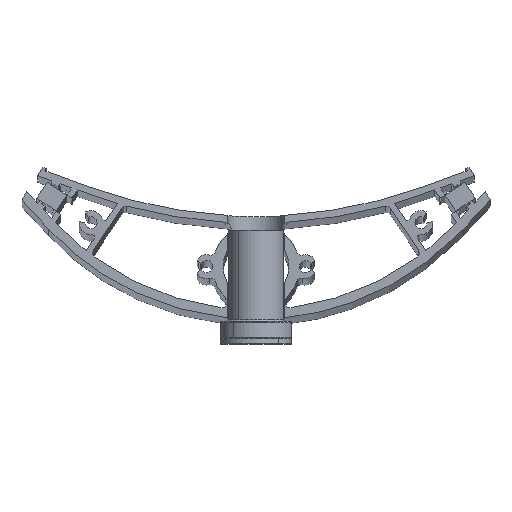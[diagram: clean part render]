
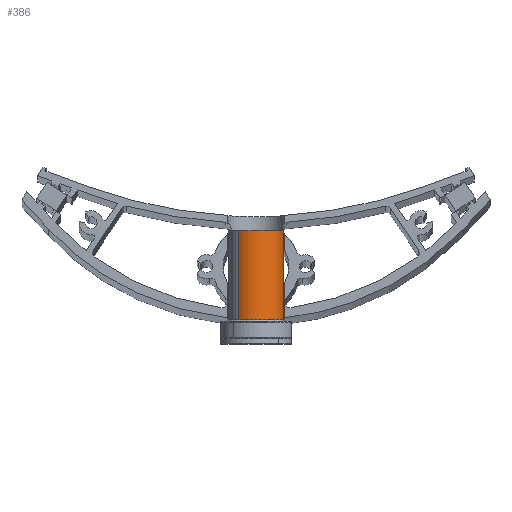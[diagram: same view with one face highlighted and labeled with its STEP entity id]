
A CAD part, top view. The second image highlights one B-rep face of the part: STEP entity #386.
In plain terms, the highlighted cylindrical face has radius 11.668 mm (diameter 23.336 mm), a partial arc.
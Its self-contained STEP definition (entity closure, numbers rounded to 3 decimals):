
#386=ADVANCED_FACE('',(#590),#3486,.T.);
#590=FACE_OUTER_BOUND('',#794,.T.);
#794=EDGE_LOOP('',(#1000,#1001,#1002,#1003));
#1000=ORIENTED_EDGE('',*,*,#2165,.F.);
#1001=ORIENTED_EDGE('',*,*,#2166,.T.);
#1002=ORIENTED_EDGE('',*,*,#2164,.T.);
#1003=ORIENTED_EDGE('',*,*,#2176,.F.);
#2164=EDGE_CURVE('',#2966,#2974,#2746,.T.);
#2165=EDGE_CURVE('',#2967,#2973,#2747,.T.);
#2166=EDGE_CURVE('',#2967,#2966,#2748,.T.);
#2176=EDGE_CURVE('',#2973,#2974,#2758,.T.);
#2746=(
BOUNDED_CURVE()
B_SPLINE_CURVE(2,(#4143,#4144,#4145,#4146,#4147),.UNSPECIFIED.,.F.,.F.)
B_SPLINE_CURVE_WITH_KNOTS((3,2,3),(-95.926,-71.945,
-47.963),.UNSPECIFIED.)
CURVE()
GEOMETRIC_REPRESENTATION_ITEM()
RATIONAL_B_SPLINE_CURVE((1.,0.707,1.,0.707,1.))
REPRESENTATION_ITEM('')
);
#2747=(
BOUNDED_CURVE()
B_SPLINE_CURVE(2,(#4148,#4149,#4150,#4151,#4152),.UNSPECIFIED.,.F.,.F.)
B_SPLINE_CURVE_WITH_KNOTS((3,2,3),(0.,19.114,38.228),
 .UNSPECIFIED.)
CURVE()
GEOMETRIC_REPRESENTATION_ITEM()
RATIONAL_B_SPLINE_CURVE((1.,0.707,1.,0.707,1.))
REPRESENTATION_ITEM('')
);
#2748=(
BOUNDED_CURVE()
B_SPLINE_CURVE(1,(#4153,#4154),.UNSPECIFIED.,.F.,.F.)
B_SPLINE_CURVE_WITH_KNOTS((2,2),(7.923,46.047),
 .UNSPECIFIED.)
CURVE()
GEOMETRIC_REPRESENTATION_ITEM()
RATIONAL_B_SPLINE_CURVE((1.,1.))
REPRESENTATION_ITEM('')
);
#2758=(
BOUNDED_CURVE()
B_SPLINE_CURVE(1,(#4191,#4192),.UNSPECIFIED.,.F.,.F.)
B_SPLINE_CURVE_WITH_KNOTS((2,2),(7.923,46.047),
 .UNSPECIFIED.)
CURVE()
GEOMETRIC_REPRESENTATION_ITEM()
RATIONAL_B_SPLINE_CURVE((1.,1.))
REPRESENTATION_ITEM('')
);
#2966=VERTEX_POINT('',#4129);
#2967=VERTEX_POINT('',#4130);
#2973=VERTEX_POINT('',#4136);
#2974=VERTEX_POINT('',#4137);
#3486=CYLINDRICAL_SURFACE('',#3642,11.668);
#3642=AXIS2_PLACEMENT_3D('',#4032,#3837,$);
#3837=DIRECTION('',(0.,-1.,0.));
#4032=CARTESIAN_POINT('',(1000.,-7.548,1515.484));
#4129=CARTESIAN_POINT('',(1007.327,15.475,1506.403));
#4130=CARTESIAN_POINT('',(1007.327,-22.648,1506.403));
#4136=CARTESIAN_POINT('',(992.673,-22.648,1524.565));
#4137=CARTESIAN_POINT('',(992.673,15.475,1524.565));
#4143=CARTESIAN_POINT('',(1007.327,15.475,1506.403));
#4144=CARTESIAN_POINT('',(1016.408,15.475,1513.73));
#4145=CARTESIAN_POINT('',(1009.081,15.475,1522.811));
#4146=CARTESIAN_POINT('',(1001.754,15.475,1531.892));
#4147=CARTESIAN_POINT('',(992.673,15.475,1524.565));
#4148=CARTESIAN_POINT('',(1007.327,-22.648,1506.403));
#4149=CARTESIAN_POINT('',(1016.408,-22.648,1513.73));
#4150=CARTESIAN_POINT('',(1009.081,-22.648,1522.811));
#4151=CARTESIAN_POINT('',(1001.754,-22.648,1531.892));
#4152=CARTESIAN_POINT('',(992.673,-22.648,1524.565));
#4153=CARTESIAN_POINT('',(1007.327,-22.648,1506.403));
#4154=CARTESIAN_POINT('',(1007.327,15.475,1506.403));
#4191=CARTESIAN_POINT('',(992.673,-22.648,1524.565));
#4192=CARTESIAN_POINT('',(992.673,15.475,1524.565));
